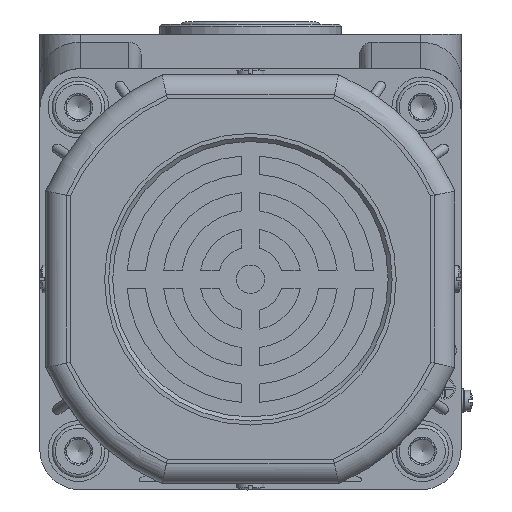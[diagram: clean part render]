
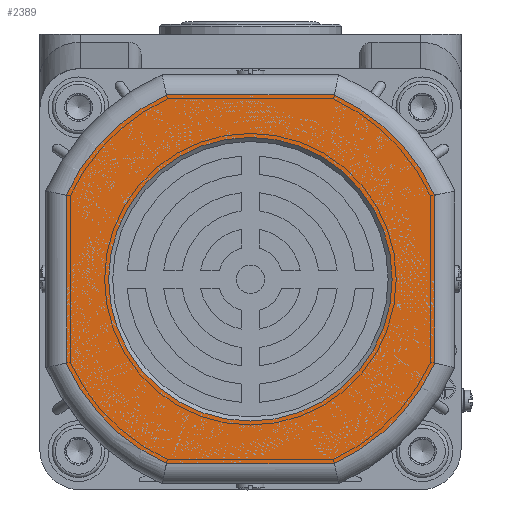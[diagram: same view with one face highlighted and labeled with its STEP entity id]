
A CAD part, left-side view. The second image highlights one B-rep face of the part: STEP entity #2389.
In plain terms, the highlighted planar face has unit normal (-1, 0, 0).
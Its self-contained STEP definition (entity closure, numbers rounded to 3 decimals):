
#644=FACE_BOUND('',#6298,.T.);
#645=FACE_BOUND('',#6299,.T.);
#2389=ADVANCED_FACE('',(#644,#645),#3980,.F.);
#3980=PLANE('',#29700);
#6298=EDGE_LOOP('',(#12519));
#6299=EDGE_LOOP('',(#12520,#12521,#12522,#12523,#12524,#12525,#12526,#12527));
#8284=LINE('',#41851,#9922);
#8285=LINE('',#41867,#9923);
#8288=LINE('',#41919,#9926);
#8289=LINE('',#41935,#9927);
#9922=VECTOR('',#32853,1.);
#9923=VECTOR('',#32856,1.);
#9926=VECTOR('',#32873,1.);
#9927=VECTOR('',#32876,1.);
#12519=ORIENTED_EDGE('',*,*,#22695,.T.);
#12520=ORIENTED_EDGE('',*,*,#22705,.T.);
#12521=ORIENTED_EDGE('',*,*,#22700,.T.);
#12522=ORIENTED_EDGE('',*,*,#22707,.T.);
#12523=ORIENTED_EDGE('',*,*,#22713,.T.);
#12524=ORIENTED_EDGE('',*,*,#22719,.T.);
#12525=ORIENTED_EDGE('',*,*,#22721,.T.);
#12526=ORIENTED_EDGE('',*,*,#22717,.T.);
#12527=ORIENTED_EDGE('',*,*,#22711,.T.);
#19853=VERTEX_POINT('',#41796);
#19858=VERTEX_POINT('',#41818);
#19859=VERTEX_POINT('',#41820);
#19861=VERTEX_POINT('',#41848);
#19864=VERTEX_POINT('',#41866);
#19865=VERTEX_POINT('',#41882);
#19868=VERTEX_POINT('',#41900);
#19869=VERTEX_POINT('',#41916);
#19872=VERTEX_POINT('',#41934);
#22695=EDGE_CURVE('',#19853,#19853,#27780,.T.);
#22700=EDGE_CURVE('',#19859,#19858,#27784,.T.);
#22705=EDGE_CURVE('',#19861,#19859,#8284,.T.);
#22707=EDGE_CURVE('',#19858,#19864,#8285,.T.);
#22711=EDGE_CURVE('',#19865,#19861,#27787,.T.);
#22713=EDGE_CURVE('',#19864,#19868,#27788,.T.);
#22717=EDGE_CURVE('',#19869,#19865,#8288,.T.);
#22719=EDGE_CURVE('',#19868,#19872,#8289,.T.);
#22721=EDGE_CURVE('',#19872,#19869,#27790,.T.);
#27780=CIRCLE('',#29438,35.);
#27784=CIRCLE('',#29444,50.);
#27787=CIRCLE('',#29450,50.);
#27788=CIRCLE('',#29452,50.);
#27790=CIRCLE('',#29457,50.);
#29438=AXIS2_PLACEMENT_3D('',#41795,#32834,#32835);
#29444=AXIS2_PLACEMENT_3D('',#41819,#32846,#32847);
#29450=AXIS2_PLACEMENT_3D('',#41885,#32862,#32863);
#29452=AXIS2_PLACEMENT_3D('',#41901,#32866,#32867);
#29457=AXIS2_PLACEMENT_3D('',#41938,#32880,#32881);
#29700=AXIS2_PLACEMENT_3D('',#42687,#33558,#33559);
#32834=DIRECTION('',(1.,0.,0.));
#32835=DIRECTION('',(0.,-1.,0.));
#32846=DIRECTION('',(-1.,0.,0.));
#32847=DIRECTION('',(0.,0.,1.));
#32853=DIRECTION('',(0.,-1.,0.));
#32856=DIRECTION('',(0.,0.,1.));
#32862=DIRECTION('',(-1.,0.,0.));
#32863=DIRECTION('',(0.,0.,1.));
#32866=DIRECTION('',(-1.,0.,0.));
#32867=DIRECTION('',(0.,0.,1.));
#32873=DIRECTION('',(0.,0.,-1.));
#32876=DIRECTION('',(0.,1.,0.));
#32880=DIRECTION('',(-1.,0.,0.));
#32881=DIRECTION('',(0.,0.,1.));
#33558=DIRECTION('',(1.,0.,0.));
#33559=DIRECTION('',(0.,0.,1.));
#41795=CARTESIAN_POINT('',(-246.8,-120.671,-58.491));
#41796=CARTESIAN_POINT('',(-246.8,-155.671,-58.491));
#41818=CARTESIAN_POINT('',(-246.8,-166.171,-79.221));
#41819=CARTESIAN_POINT('',(-246.8,-120.671,-58.491));
#41820=CARTESIAN_POINT('',(-246.8,-141.402,-103.991));
#41848=CARTESIAN_POINT('',(-246.8,-99.941,-103.991));
#41851=CARTESIAN_POINT('',(-246.8,-142.46,-103.991));
#41866=CARTESIAN_POINT('',(-246.8,-166.171,-37.76));
#41867=CARTESIAN_POINT('',(-246.8,-166.171,-36.702));
#41882=CARTESIAN_POINT('',(-246.8,-75.171,-79.221));
#41885=CARTESIAN_POINT('',(-246.8,-120.671,-58.491));
#41900=CARTESIAN_POINT('',(-246.8,-141.402,-12.991));
#41901=CARTESIAN_POINT('',(-246.8,-120.671,-58.491));
#41916=CARTESIAN_POINT('',(-246.8,-75.171,-37.76));
#41919=CARTESIAN_POINT('',(-246.8,-75.171,-80.28));
#41934=CARTESIAN_POINT('',(-246.8,-99.941,-12.991));
#41935=CARTESIAN_POINT('',(-246.8,-98.882,-12.991));
#41938=CARTESIAN_POINT('',(-246.8,-120.671,-58.491));
#42687=CARTESIAN_POINT('',(-246.8,-120.671,-58.491));
